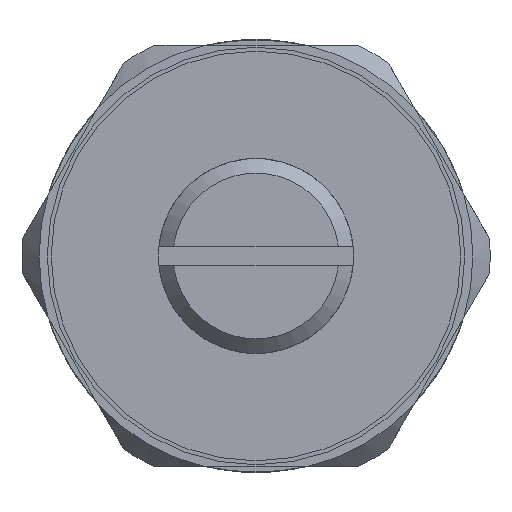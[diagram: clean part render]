
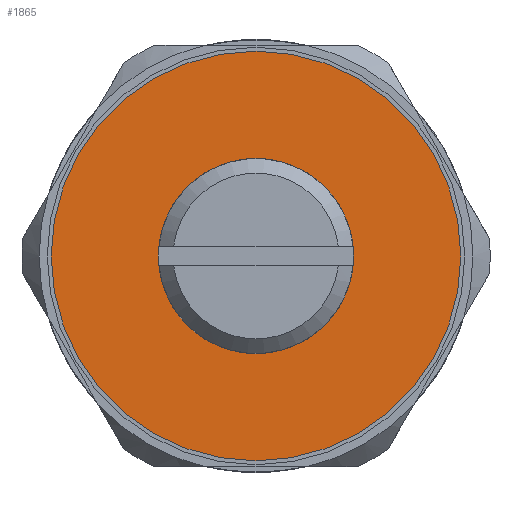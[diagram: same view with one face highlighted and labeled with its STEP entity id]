
A CAD part, left-side view. The second image highlights one B-rep face of the part: STEP entity #1865.
In plain terms, the highlighted planar face has unit normal (-1, 0, 0).
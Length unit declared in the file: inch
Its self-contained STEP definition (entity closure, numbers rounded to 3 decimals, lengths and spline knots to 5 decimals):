
#97=FACE_BOUND('',#302,.T.);
#130=PLANE('',#2028);
#194=FACE_OUTER_BOUND('',#301,.T.);
#301=EDGE_LOOP('',(#1328,#1329));
#302=EDGE_LOOP('',(#1330,#1331));
#570=CIRCLE('',#1973,0.14764);
#571=CIRCLE('',#1974,0.14764);
#600=CIRCLE('',#2029,0.41339);
#601=CIRCLE('',#2030,0.41339);
#713=VERTEX_POINT('',#2808);
#714=VERTEX_POINT('',#2809);
#767=VERTEX_POINT('',#3017);
#768=VERTEX_POINT('',#3018);
#903=EDGE_CURVE('',#713,#714,#570,.T.);
#904=EDGE_CURVE('',#714,#713,#571,.T.);
#984=EDGE_CURVE('',#767,#768,#600,.T.);
#985=EDGE_CURVE('',#768,#767,#601,.T.);
#1328=ORIENTED_EDGE('',*,*,#984,.T.);
#1329=ORIENTED_EDGE('',*,*,#985,.T.);
#1330=ORIENTED_EDGE('',*,*,#903,.T.);
#1331=ORIENTED_EDGE('',*,*,#904,.T.);
#1865=ADVANCED_FACE('',(#194,#97),#130,.T.);
#1973=AXIS2_PLACEMENT_3D('',#2810,#2231,#2232);
#1974=AXIS2_PLACEMENT_3D('',#2811,#2233,#2234);
#2028=AXIS2_PLACEMENT_3D('',#3016,#2368,#2369);
#2029=AXIS2_PLACEMENT_3D('',#3019,#2370,#2371);
#2030=AXIS2_PLACEMENT_3D('',#3020,#2372,#2373);
#2231=DIRECTION('center_axis',(1.,0.,0.));
#2232=DIRECTION('ref_axis',(0.,0.866,-0.5));
#2233=DIRECTION('center_axis',(1.,0.,0.));
#2234=DIRECTION('ref_axis',(0.,0.866,-0.5));
#2368=DIRECTION('center_axis',(-1.,0.,0.));
#2369=DIRECTION('ref_axis',(0.,0.866,-0.5));
#2370=DIRECTION('center_axis',(-1.,0.,0.));
#2371=DIRECTION('ref_axis',(0.,0.866,-0.5));
#2372=DIRECTION('center_axis',(-1.,0.,0.));
#2373=DIRECTION('ref_axis',(0.,0.866,-0.5));
#2808=CARTESIAN_POINT('',(-2.25408,0.22916,-0.41816));
#2809=CARTESIAN_POINT('',(-2.25408,-0.02656,-0.27052));
#2810=CARTESIAN_POINT('Origin',(-2.25408,0.1013,-0.34434));
#2811=CARTESIAN_POINT('Origin',(-2.25408,0.1013,-0.34434));
#3016=CARTESIAN_POINT('Origin',(-2.25408,0.1013,-0.34434));
#3017=CARTESIAN_POINT('',(-2.25408,0.4593,-0.55103));
#3018=CARTESIAN_POINT('',(-2.25408,-0.2567,-0.13765));
#3019=CARTESIAN_POINT('Origin',(-2.25408,0.1013,-0.34434));
#3020=CARTESIAN_POINT('Origin',(-2.25408,0.1013,-0.34434));
